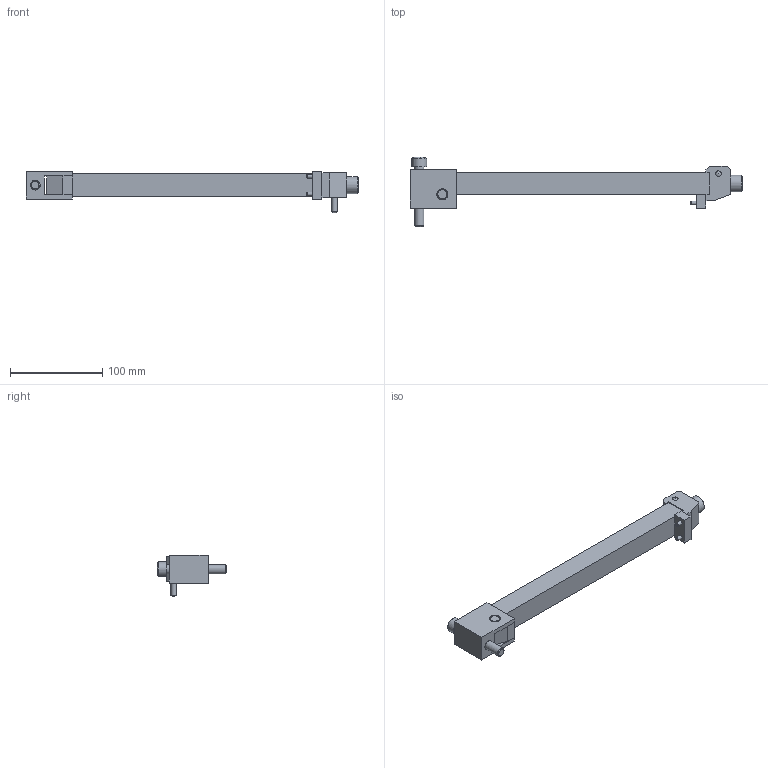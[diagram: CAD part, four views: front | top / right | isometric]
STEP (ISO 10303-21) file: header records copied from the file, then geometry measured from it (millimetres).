
FILE_DESCRIPTION(/* description */ ('STEP AP214'),/* implementation_level */ '2;1');
FILE_NAME(/* name */ 'KL12270',/* time_stamp */ '2024-12-19T07:59:36+01:00',/* author */ ('License CC BY-ND 4.0'),/* organization */ ('CADENAS'),/* preprocessor_version */ 'ST-DEVELOPER v19.3',/* originating_system */ 'PARTsolutions',/* authorisation */ ' ');
FILE_SCHEMA (('AUTOMOTIVE_DESIGN {1 0 10303 214 3 1 1}'));
Length unit declared in the file: millimetre
Products named in the file (11): KL12270; KL122701; KL122702; KL122703; KL122704; KL122705; KL122706; KL122707; KL122708; KL122709; KL1227010
Assembly tree (11 placements, depth 2):
  KL12270
    KL122701
    KL122702
    KL122703
    KL122704
    KL122705
    KL122706
    KL122707
    KL122708
    KL122709  x2
    KL1227010
Bounding box: 359 x 75 x 44.7 mm (x, y, z)
Volume: 245965.7 mm3; surface area: 64147 mm2
Topology: 11 solids, 11 shells, 135 faces, 300 edges, 196 vertices
Faces by surface type: plane 95, cylinder 23, cone 15, sphere 2
Full cylindrical faces by diameter (mm): 4 x2, 4.134 x1, 4.3 x2, 5 x1, 6 x2, 7 x2, 8 x2, 10 x1, 10.106 x1, 10.5 x1, 12 x5, 13 x1, 16 x1, 18 x1
Entity records: 3416 total; most frequent: CARTESIAN_POINT 546, DIRECTION 544, ORIENTED_EDGE 452, EDGE_CURVE 226, AXIS2_PLACEMENT_3D 186, FACE_BOUND 183, EDGE_LOOP 182, LINE 172
